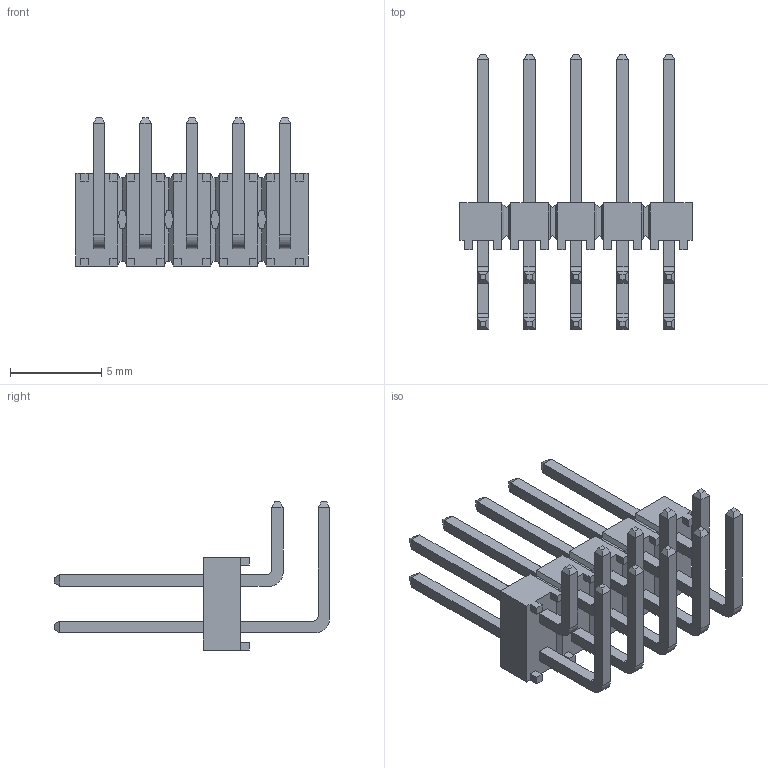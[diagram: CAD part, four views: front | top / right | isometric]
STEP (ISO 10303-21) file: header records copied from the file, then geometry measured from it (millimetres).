
FILE_DESCRIPTION(/* description */ ('STEP AP214'),/* implementation_level */ '2;1');
FILE_NAME(/* name */ 'TSW-105-25-F-D-NA',/* time_stamp */ '2025-12-25T15:05:06+01:00',/* author */ ('License CC BY-ND 4.0'),/* organization */ ('CADENAS'),/* preprocessor_version */ 'ST-DEVELOPER v20',/* originating_system */ 'PARTsolutions',/* authorisation */ ' ');
FILE_SCHEMA (('AUTOMOTIVE_DESIGN {1 0 10303 214 3 1 1}'));
Length unit declared in the file: inch
Products named in the file (3): TSW-105-25-F-D-NA; TSW-105-25-F-D-NA_body; T-1S6-15-TSW-1-25-5-NA-D
Assembly tree (2 placements, depth 2):
  TSW-105-25-F-D-NA
    TSW-105-25-F-D-NA_body
    T-1S6-15-TSW-1-25-5-NA-D
Bounding box: 12.7 x 15.05 x 8.1 mm (x, y, z)
Volume: 197.4 mm3; surface area: 832.8 mm2
Topology: 2 solids, 2 shells, 448 faces, 1176 edges, 744 vertices
Faces by surface type: plane 428, cylinder 20
Entity records: 13514 total; most frequent: CARTESIAN_POINT 2371, ORIENTED_EDGE 2352, DIRECTION 2118, EDGE_CURVE 1176, LINE 1136, VECTOR 1136, VERTEX_POINT 744, AXIS2_PLACEMENT_3D 491
